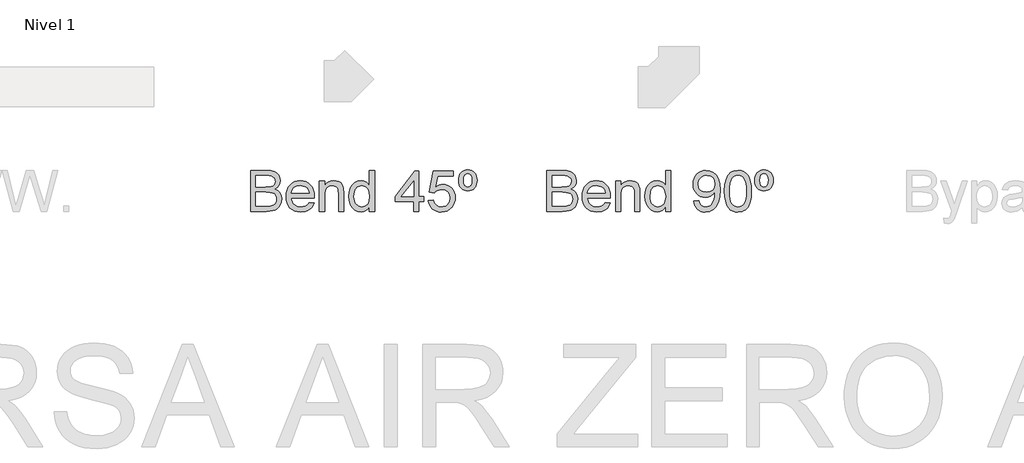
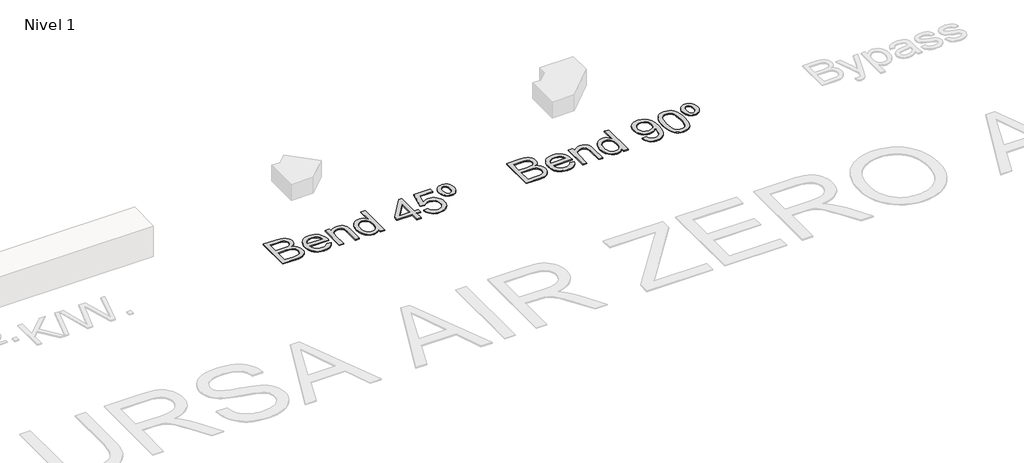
# One storey, part 2 of 6: 2 proxies.
"""IFC4 building model written with IfcOpenShell, lengths in millimetres."""

import ifcopenshell
import ifcopenshell.guid

model = None  # the IFC model being written
_history = None  # IfcOwnerHistory: only IFC2X3 demands one
_inside = {}  # id of a spatial element -> (the spatial element, [elements in it])
_under = {}  # id of a project, library or spatial element -> (it, [spatial elements below it])
_declared = {}  # id of a project -> (the project, [libraries it declares])
_typed = {}  # id of a type object -> (the type object, [elements of that type])
_made_of = {}  # id of a material, layer set ... -> (it, [elements and type objects made of it])


def new_model(schema):
    """Start an empty IFC model of exactly this schema.

    Asked for "IFC4X3", IfcOpenShell would pick the latest addendum, in which some entities
    have other attributes; the version numbers below select the first issue.
    IFC2X3 requires an IfcOwnerHistory on every rooted entity: one is made here for all.
    """
    global model, _history
    if schema == "IFC4X3":
        model = ifcopenshell.file(schema_version=(4, 3, 0, 0))
    else:
        model = ifcopenshell.file(schema=schema)
    _inside.clear()
    _under.clear()
    _declared.clear()
    _typed.clear()
    _made_of.clear()
    _history = None
    if model.schema == "IFC2X3":
        org = make("IfcOrganization", Name="unknown")
        user = make(
            "IfcPersonAndOrganization",
            ThePerson=make("IfcPerson", FamilyName="unknown"),
            TheOrganization=org,
        )
        app = make(
            "IfcApplication",
            ApplicationDeveloper=org,
            Version="unknown",
            ApplicationFullName="unknown",
            ApplicationIdentifier="unknown",
        )
        _history = make(
            "IfcOwnerHistory",
            OwningUser=user,
            OwningApplication=app,
            ChangeAction="ADDED",
            CreationDate=0,
        )
    return model


def make(cls, **values):
    """One entity of the class cls with the attributes given. An attribute that is None is left unset."""
    return model.create_entity(
        cls, **{name: value for name, value in values.items() if value is not None}
    )


def rooted(cls, **values):
    """An entity with a GlobalId (a new one), such as an element, a storey or a relation."""
    return make(cls, GlobalId=ifcopenshell.guid.new(), OwnerHistory=_history, **values)


def si_unit(unit_type, name, prefix=None):
    """IfcSIUnit, for example si_unit("LENGTHUNIT", "METRE", prefix="MILLI")."""
    return make("IfcSIUnit", UnitType=unit_type, Prefix=prefix, Name=name)


def assignment(units):
    """IfcUnitAssignment: the units of a project."""
    return None if units is None else make("IfcUnitAssignment", Units=units)


def point(xyz):
    """IfcCartesianPoint."""
    return None if xyz is None else make("IfcCartesianPoint", Coordinates=xyz)


def direction(xyz):
    """IfcDirection."""
    return None if xyz is None else make("IfcDirection", DirectionRatios=xyz)


def frame(location, z_axis=None, x_axis=None):
    """IfcAxis2Placement3D, a coordinate frame: its origin and axes. An axis left out is left unset."""
    return make(
        "IfcAxis2Placement3D",
        Location=point(location),
        Axis=direction(z_axis),
        RefDirection=direction(x_axis),
    )


def origin():
    """The frame at (0, 0, 0) with its axes left unset."""
    return frame((0.0, 0.0, 0.0))


def origin_with_axes():
    """The frame at (0, 0, 0) with the z axis (0, 0, 1) and the x axis (1, 0, 0) written out."""
    return frame((0.0, 0.0, 0.0), z_axis=(0.0, 0.0, 1.0), x_axis=(1.0, 0.0, 0.0))


def place(relative_to, where):
    """IfcLocalPlacement: puts the frame where relative to a parent placement (None: the world)."""
    return make(
        "IfcLocalPlacement", PlacementRelTo=relative_to, RelativePlacement=where
    )


def context(
    kind, dimensions, precision=None, world=None, true_north=None, identifier=None
):
    """IfcGeometricRepresentationContext, for example the 3D "Model" context."""
    return make(
        "IfcGeometricRepresentationContext",
        ContextIdentifier=identifier,
        ContextType=kind,
        CoordinateSpaceDimension=dimensions,
        Precision=precision,
        WorldCoordinateSystem=world,
        TrueNorth=true_north,
    )


def project(units=None, contexts=None):
    """IfcProject with its units and contexts."""
    return rooted(
        "IfcProject",
        Name="project",
        RepresentationContexts=contexts,
        UnitsInContext=assignment(units),
    )


def spatial(cls, under=None, at=None, **own):
    """A site, building, storey or space (cls), placed at a placement, below another one or the project."""
    s = rooted(cls, ObjectPlacement=at, **own)
    if under is not None:
        _under.setdefault(under.id(), (under, []))[1].append(s)
    return s


def polyline(points):
    """IfcPolyline through the points."""
    return make("IfcPolyline", Points=[point(p) for p in points])


def outline(outer, holes=None, kind="AREA"):
    """IfcArbitraryClosedProfileDef: a profile drawn as a closed curve; with holes, ...WithVoids."""
    if holes is None:
        return make("IfcArbitraryClosedProfileDef", ProfileType=kind, OuterCurve=outer)
    return make(
        "IfcArbitraryProfileDefWithVoids",
        ProfileType=kind,
        OuterCurve=outer,
        InnerCurves=holes,
    )


def extrude(swept, where, along, depth):
    """IfcExtrudedAreaSolid: the profile swept, set in the frame where, extruded along a direction by depth."""
    return make(
        "IfcExtrudedAreaSolid",
        SweptArea=swept,
        Position=where,
        ExtrudedDirection=direction(along),
        Depth=depth,
    )


def shape(context_of_items, identifier, shape_type, items):
    """IfcShapeRepresentation: the items that make up one representation, for example the "Body"."""
    return make(
        "IfcShapeRepresentation",
        ContextOfItems=context_of_items,
        RepresentationIdentifier=identifier,
        RepresentationType=shape_type,
        Items=items,
    )


def made_of(thing, what):
    """Note that an element or type object is made of a material, layer set ...; save() writes the relation."""
    if what is not None:
        _made_of.setdefault(what.id(), (what, []))[1].append(thing)
    return thing


def element(
    cls,
    number,
    at=None,
    inside=None,
    cuts=None,
    type_object=None,
    material=None,
    context=None,
    identifier="Body",
    shape_type=None,
    held_by="IfcProductDefinitionShape",
    body=None,
    shapes=None,
    **own,
):
    """One element of the class cls, such as IfcWall. Its Tag is "e" and its number.

    at: its placement. inside: the storey or other place that contains it. cuts: it is an
    opening in that element (IfcRelVoidsElement). A single representation is given by context,
    identifier, shape_type and body (its items); several are given by shapes. held_by: the class
    of the entity that holds the representations. save() writes the other relations.
    """
    e = rooted(cls, Tag="e%d" % number, ObjectPlacement=at, **own)
    if body is not None:
        shapes = [shape(context, identifier, shape_type, body)]
    if shapes is not None:
        e.Representation = make(held_by, Representations=shapes)
    if inside is not None:
        _inside.setdefault(inside.id(), (inside, []))[1].append(e)
    if cuts is not None:
        rooted(
            "IfcRelVoidsElement", RelatingBuildingElement=cuts, RelatedOpeningElement=e
        )
    if type_object is not None:
        _typed.setdefault(type_object.id(), (type_object, []))[1].append(e)
    return made_of(e, material)


def aggregate(whole, parts):
    """IfcRelAggregates: a whole, such as a stair, and the parts it consists of."""
    return rooted("IfcRelAggregates", RelatingObject=whole, RelatedObjects=parts)


def save(model, path):
    """Write the relations noted so far, then the file.

    IfcRelAggregates (storeys below a building ...), IfcRelContainedInSpatialStructure (elements
    in a storey), IfcRelDefinesByType, IfcRelAssociatesMaterial and IfcRelDeclares: one each for
    every whole, place, type object, material and project.
    """
    for whole, parts in _under.values():
        aggregate(whole, parts)
    for where, things in _inside.values():
        rooted(
            "IfcRelContainedInSpatialStructure",
            RelatedElements=things,
            RelatingStructure=where,
        )
    for kind, things in _typed.values():
        rooted("IfcRelDefinesByType", RelatedObjects=things, RelatingType=kind)
    for what, things in _made_of.values():
        rooted("IfcRelAssociatesMaterial", RelatedObjects=things, RelatingMaterial=what)
    for by, libraries in _declared.values():
        rooted("IfcRelDeclares", RelatingContext=by, RelatedDefinitions=libraries)
    model.write(path)


model = new_model("IFC4")

# Units and contexts
model_context = context("Model", 3, world=origin())
ifc_project = project(units=[si_unit("LENGTHUNIT", "METRE", prefix="MILLI")], contexts=[model_context])

# Site, building, storey
site = spatial("IfcSite", under=ifc_project)
building = spatial("IfcBuilding", under=site)
storey = spatial("IfcBuildingStorey", under=building, Name="Nivel 1", Elevation=0.0)

# Proxies
placement = place(None, origin())
element("IfcBuildingElementProxy", 1, Name="Texto de modelo 1", ObjectType="Texto de modelo 1", at=placement, inside=storey, context=model_context, shape_type="SweptSolid", body=[
    extrude(outline(polyline([(-12647.2257792, -1016.3248037), (-12647.2257792, -614.4995631), (-12493.8925636, -614.4995631), (-12451.7210242, -617.4548818), (-12418.7955857, -626.3208379), (-12393.5588808, -641.3181605), (-12374.4535425, -662.667579), (-12362.4238013, -687.7816565), (-12358.4138875, -714.0729565), (-12361.7861391, -738.267329), (-12371.902894, -761.014699), (-12388.8377285, -780.917115), (-12412.6642191, -796.5766252), (-12384.2024154, -811.4390578), (-12363.171828, -834.0515378), (-12350.1855936, -862.9180117), (-12345.8568488, -896.5424261), (-12348.8121674, -924.5627714), (-12357.6781235, -950.547503), (-12370.9096126, -972.6449481), (-12386.9615303, -989.0034342), (-12406.6186916, -1000.8492344), (-12430.6659114, -1009.4086222), (-12459.8880045, -1014.5957583), (-12495.069786, -1016.3248037), (-12647.2257792, -1016.3248037)]), holes=[polyline([(-12596.9976241, -777.7410671), (-12505.27238, -777.7410671), (-12451.7087615, -773.424585), (-12432.9590425, -765.981106), (-12419.4822987, -754.8342815), (-12411.3521066, -740.1557899), (-12408.6420426, -722.1173094), (-12411.1681656, -704.6061264), (-12418.7465347, -689.3512864), (-12431.0337934, -677.4441725), (-12447.686585, -669.976168), (-12473.2421209, -666.0398306), (-12512.2376124, -664.7277182), (-12596.9976241, -664.7277182), (-12596.9976241, -777.7410671)]), polyline([(-12596.9976241, -966.0966486), (-12493.9906655, -966.0966486), (-12456.7119566, -964.1346113), (-12425.1722069, -953.1962533), (-12413.5961868, -943.7662115), (-12404.2765096, -930.8780789), (-12398.1328803, -915.1082041), (-12396.0850038, -897.0329354), (-12398.4884995, -876.0391362), (-12405.6989866, -857.988393), (-12418.2928136, -843.8739871), (-12436.8463289, -834.6891999), (-12463.1253661, -829.6492166), (-12498.8957587, -827.9692222), (-12596.9976241, -827.9692222), (-12596.9976241, -966.0966486)])]), origin_with_axes(), (0.0, 0.0, 1.0), 10.0),
    extrude(outline(polyline([(-12076.4691264, -928.4255323), (-12027.22199, -934.7040517), (-12034.7727679, -954.428658), (-12044.9661649, -971.8110823), (-12057.8021808, -986.8513245), (-12073.2808158, -999.5493847), (-12091.2426542, -1009.6354827), (-12111.5282806, -1016.8398385), (-12159.0708971, -1022.6033231), (-12190.2366334, -1020.1170539), (-12218.0055927, -1012.6582465), (-12242.3777749, -1000.2269007), (-12263.35318, -982.8230167), (-12280.2205694, -960.9309723), (-12292.2687048, -935.0351455), (-12299.497586, -905.1355363), (-12301.9072131, -871.2321448), (-12299.4730605, -836.179122), (-12292.1706029, -805.2831658), (-12279.9998402, -778.5442761), (-12262.9607725, -755.962453), (-12242.0405497, -738.0220743), (-12218.2263219, -725.2075182), (-12191.518089, -717.5187845), (-12161.9158512, -714.9558732), (-12133.2670408, -717.5126531), (-12107.3589513, -725.1829927), (-12084.1915826, -737.966892), (-12063.7649348, -755.8643511), (-12047.0906834, -778.3971233), (-12035.1805038, -805.0869621), (-12028.0343961, -835.9338674), (-12025.6523601, -870.9378392), (-12025.9466657, -884.4758966), (-12251.679058, -884.4758966), (-12248.7697245, -904.519334), (-12242.9847802, -922.0734365), (-12234.3242249, -937.1382042), (-12222.7880586, -949.7136371), (-12209.0139436, -959.6280569), (-12193.6395419, -966.7097853), (-12158.0898784, -972.375168), (-12131.3571201, -969.7509431), (-12108.842742, -961.8782684), (-12090.5467441, -948.2666346), (-12076.4691264, -928.4255323)]), holes=[polyline([(-12251.679058, -834.2477415), (-12075.8805152, -834.2477415), (-12082.6740694, -807.711187), (-12095.9913976, -788.728476), (-12109.6888706, -778.4277801), (-12125.2748044, -771.0701402), (-12142.7491992, -766.6555563), (-12162.1120549, -765.1840283), (-12195.9694612, -769.8806551), (-12223.965281, -783.9705355), (-12243.4262386, -805.9330907), (-12251.679058, -834.2477415)])]), origin_with_axes(), (0.0, 0.0, 1.0), 10.0),
    extrude(outline(polyline([(-11975.4242051, -1016.3248037), (-11975.4242051, -721.2343926), (-11925.19605, -721.2343926), (-11925.19605, -762.4371761), (-11907.7461807, -741.6641061), (-11886.7891697, -726.826199), (-11862.325017, -717.9234547), (-11834.3537227, -714.9558732), (-11809.5952644, -717.3471062), (-11786.9214707, -724.5208051), (-11768.0123362, -735.5817904), (-11754.5478552, -749.6348827), (-11745.412119, -766.6432936), (-11739.4892188, -786.570235), (-11736.8404685, -835.1306583), (-11736.8404685, -1016.3248037), (-11787.0686235, -1016.3248037), (-11787.0686235, -841.899687), (-11788.5156261, -815.9272182), (-11792.8566336, -797.459542), (-11800.8641984, -784.2280529), (-11813.3108725, -773.9641453), (-11829.2646884, -767.3790576), (-11847.7936782, -765.1840283), (-11877.2119751, -770.1136471), (-11902.2892644, -784.9025033), (-11912.3109831, -796.9751641), (-11919.4693536, -813.4746716), (-11923.7643759, -834.4010257), (-11925.19605, -859.7542265), (-11925.19605, -1016.3248037), (-11975.4242051, -1016.3248037)])), origin_with_axes(), (0.0, 0.0, 1.0), 10.0),
    extrude(outline(polyline([(-11485.6996931, -1016.3248037), (-11485.6996931, -968.9416027), (-11500.7276726, -992.4186054), (-11518.9317, -1009.187893), (-11540.3117753, -1019.2494656), (-11564.8678985, -1022.6033231), (-11597.3396159, -1017.7472807), (-11627.0644811, -1003.1791537), (-11652.2276096, -979.9167489), (-11671.0141168, -948.9778731), (-11682.7127642, -911.6133251), (-11686.6123134, -869.0739038), (-11683.0193326, -827.0617799), (-11672.2403901, -789.1208835), (-11654.2877488, -757.4094555), (-11629.1736712, -734.085737), (-11598.7988811, -719.7383392), (-11565.0641022, -714.9558732), (-11540.4895849, -718.3771758), (-11518.7600217, -728.6410835), (-11500.3413965, -744.3741701), (-11485.6996931, -764.2030097), (-11485.6996931, -614.4995631), (-11435.471538, -614.4995631), (-11435.471538, -1016.3248037), (-11485.6996931, -1016.3248037)]), holes=[polyline([(-11636.3841583, -868.8777), (-11634.9678126, -893.2345538), (-11630.7187756, -914.3111264), (-11623.6370472, -932.1074179), (-11613.7226274, -946.6234283), (-11589.0254828, -965.9372331), (-11575.1502002, -970.7656843), (-11560.2571108, -972.375168), (-11545.2935106, -970.8392607), (-11531.5010015, -966.2315387), (-11507.4292563, -947.8006507), (-11497.9225724, -933.8916456), (-11491.1320839, -916.7391476), (-11485.6996931, -872.7036728), (-11491.2301858, -824.5601823), (-11498.1433016, -806.0250612), (-11507.8216637, -791.1810226), (-11519.5233769, -779.8073376), (-11532.5065456, -771.6832769), (-11546.77117, -766.8088405), (-11562.31725, -765.1840283), (-11577.504645, -766.7444611), (-11591.3799276, -771.4257595), (-11603.9430977, -779.2279235), (-11615.1941554, -790.1509531), (-11624.4647817, -804.4339715), (-11631.0866576, -822.3161022), (-11636.3841583, -868.8777)])]), origin_with_axes(), (0.0, 0.0, 1.0), 10.0),
    extrude(outline(polyline([(-11052.4818556, -1016.3248037), (-11052.4818556, -922.1470129), (-11234.5589177, -922.1470129), (-11234.5589177, -871.9188579), (-11039.9248168, -620.7780825), (-11002.2537005, -620.7780825), (-11002.2537005, -871.9188579), (-10952.0255454, -871.9188579), (-10952.0255454, -922.1470129), (-11002.2537005, -922.1470129), (-11002.2537005, -1016.3248037), (-11052.4818556, -1016.3248037)]), holes=[polyline([(-11052.4818556, -871.9188579), (-11052.4818556, -716.7217068), (-11172.7547425, -871.9188579), (-11052.4818556, -871.9188579)])]), origin_with_axes(), (0.0, 0.0, 1.0), 10.0),
    extrude(outline(polyline([(-10908.0759097, -909.5899742), (-10857.8477547, -903.3114548), (-10848.6261793, -933.4655156), (-10832.5374734, -955.0601888), (-10809.6552133, -968.0464232), (-10780.0529754, -972.375168), (-10760.9231117, -970.8699175), (-10744.0495908, -966.354166), (-10729.4324129, -958.8279135), (-10717.0715778, -948.2911601), (-10707.2429972, -935.2650717), (-10700.2225825, -920.2708148), (-10694.6062507, -884.3777948), (-10699.8669632, -850.5817021), (-10706.4428539, -836.6635), (-10715.6491008, -824.7318606), (-10727.5163608, -815.1607974), (-10742.0752908, -808.3243236), (-10779.2681605, -802.8551446), (-10803.6342113, -805.0379111), (-10823.364949, -811.5862106), (-10839.1225611, -821.6171264), (-10851.5692353, -834.2477415), (-10901.7973903, -827.9692222), (-10857.8477547, -620.7780825), (-10663.2136537, -620.7780825), (-10663.2136537, -671.0062376), (-10817.2335824, -671.0062376), (-10838.7178909, -781.6651417), (-10820.9921101, -768.9609501), (-10802.8371336, -759.8865276), (-10784.2529615, -754.4418741), (-10765.2395937, -752.6269896), (-10740.7785067, -754.8772011), (-10718.3101139, -761.6278357), (-10697.8344152, -772.8788934), (-10679.3514106, -788.6303741), (-10664.0505853, -807.9196534), (-10653.1214243, -829.7841067), (-10646.5639278, -854.2237339), (-10644.3780956, -881.2385351), (-10646.3462643, -907.2600549), (-10652.2507703, -931.4666901), (-10662.0916137, -953.8584409), (-10675.8687944, -974.4353072), (-10696.7399662, -995.5088141), (-10721.0937543, -1010.5613191), (-10748.9301586, -1019.5928221), (-10780.2491791, -1022.6033231), (-10806.1695314, -1020.6688769), (-10829.5821547, -1014.8655384), (-10850.4870491, -1005.1933077), (-10868.8842145, -991.6521846), (-10884.1911712, -974.9166195), (-10895.8254393, -955.6610627), (-10903.7870188, -933.8855143), (-10908.0759097, -909.5899742)])), origin_with_axes(), (0.0, 0.0, 1.0), 10.0),
    extrude(outline(polyline([(-10521.9469676, -608.2210437), (-10502.7619215, -609.9439577), (-10485.4285482, -615.1126998), (-10469.9468476, -623.7272698), (-10456.3168197, -635.7876679), (-10445.200652, -650.8830924), (-10437.2605323, -668.6027419), (-10432.4964605, -688.9466162), (-10430.9084365, -711.9147154), (-10432.5056575, -734.7969755), (-10437.2973205, -755.0795362), (-10445.2834255, -772.7623974), (-10456.4639725, -787.8455592), (-10470.1215915, -799.9059573), (-10485.5389128, -808.5205274), (-10502.7159363, -813.6892694), (-10521.652662, -815.4121834), (-10540.8469051, -813.7229919), (-10558.2078696, -808.6554174), (-10573.7355555, -800.2094599), (-10587.4299627, -788.3851195), (-10598.6105097, -773.5441467), (-10606.5966147, -756.0482921), (-10611.3882777, -735.8975558), (-10612.9854987, -713.0919378), (-10611.3974747, -689.6088038), (-10606.6334029, -668.8970474), (-10598.6932832, -650.9566688), (-10587.5771155, -635.7876679), (-10573.9470876, -623.7272698), (-10558.465387, -615.1126998), (-10541.1320136, -609.9439577), (-10521.9469676, -608.2210437)]), holes=[polyline([(-10521.9469676, -645.89216), (-10538.5139201, -649.754921), (-10551.52468, -661.3432038), (-10559.9491777, -681.6870781), (-10562.7573436, -711.8166136), (-10559.9001268, -741.394326), (-10551.3284763, -761.8485649), (-10538.2686654, -773.7679415), (-10521.9469676, -777.7410671), (-10505.5026424, -773.7679415), (-10492.467357, -761.8485649), (-10483.969283, -741.0509694), (-10481.1365916, -710.4431874), (-10483.9938084, -681.7116036), (-10492.5654589, -661.6375094), (-10505.6252697, -649.8284974), (-10521.9469676, -645.89216)])]), origin_with_axes(), (0.0, 0.0, 1.0), 10.0),
])
element("IfcBuildingElementProxy", 2, Name="Texto de modelo 1", ObjectType="Texto de modelo 1", at=placement, inside=storey, context=model_context, shape_type="SweptSolid", body=[
    extrude(outline(polyline([(-9747.2257792, -1016.3248037), (-9747.2257792, -614.4995631), (-9593.8925636, -614.4995631), (-9551.7210242, -617.4548818), (-9518.7955857, -626.3208379), (-9493.5588808, -641.3181605), (-9474.4535425, -662.667579), (-9462.4238013, -687.7816565), (-9458.4138875, -714.0729565), (-9461.7861391, -738.267329), (-9471.902894, -761.014699), (-9488.8377285, -780.917115), (-9512.6642191, -796.5766252), (-9484.2024154, -811.4390578), (-9463.171828, -834.0515378), (-9450.1855936, -862.9180117), (-9445.8568488, -896.5424261), (-9448.8121674, -924.5627714), (-9457.6781235, -950.547503), (-9470.9096126, -972.6449481), (-9486.9615303, -989.0034342), (-9506.6186916, -1000.8492344), (-9530.6659114, -1009.4086222), (-9559.8880045, -1014.5957583), (-9595.069786, -1016.3248037), (-9747.2257792, -1016.3248037)]), holes=[polyline([(-9696.9976241, -777.7410671), (-9605.27238, -777.7410671), (-9551.7087615, -773.424585), (-9532.9590425, -765.981106), (-9519.4822987, -754.8342815), (-9511.3521066, -740.1557899), (-9508.6420426, -722.1173094), (-9511.1681656, -704.6061264), (-9518.7465347, -689.3512864), (-9531.0337934, -677.4441725), (-9547.686585, -669.976168), (-9573.2421209, -666.0398306), (-9612.2376124, -664.7277182), (-9696.9976241, -664.7277182), (-9696.9976241, -777.7410671)]), polyline([(-9696.9976241, -966.0966486), (-9593.9906655, -966.0966486), (-9556.7119566, -964.1346113), (-9525.1722069, -953.1962533), (-9513.5961868, -943.7662115), (-9504.2765096, -930.8780789), (-9498.1328803, -915.1082041), (-9496.0850038, -897.0329354), (-9498.4884995, -876.0391362), (-9505.6989866, -857.988393), (-9518.2928136, -843.8739871), (-9536.8463289, -834.6891999), (-9563.1253661, -829.6492166), (-9598.8957587, -827.9692222), (-9696.9976241, -827.9692222), (-9696.9976241, -966.0966486)])]), origin_with_axes(), (0.0, 0.0, 1.0), 10.0),
    extrude(outline(polyline([(-9176.4691264, -928.4255323), (-9127.22199, -934.7040517), (-9134.7727679, -954.428658), (-9144.9661649, -971.8110823), (-9157.8021808, -986.8513245), (-9173.2808158, -999.5493847), (-9191.2426542, -1009.6354827), (-9211.5282806, -1016.8398385), (-9259.0708971, -1022.6033231), (-9290.2366334, -1020.1170539), (-9318.0055927, -1012.6582465), (-9342.3777749, -1000.2269007), (-9363.35318, -982.8230167), (-9380.2205694, -960.9309723), (-9392.2687048, -935.0351455), (-9399.497586, -905.1355363), (-9401.9072131, -871.2321448), (-9399.4730605, -836.179122), (-9392.1706029, -805.2831658), (-9379.9998402, -778.5442761), (-9362.9607725, -755.962453), (-9342.0405497, -738.0220743), (-9318.2263219, -725.2075182), (-9291.518089, -717.5187845), (-9261.9158512, -714.9558732), (-9233.2670408, -717.5126531), (-9207.3589513, -725.1829927), (-9184.1915826, -737.966892), (-9163.7649348, -755.8643511), (-9147.0906834, -778.3971233), (-9135.1805038, -805.0869621), (-9128.0343961, -835.9338674), (-9125.6523601, -870.9378392), (-9125.9466657, -884.4758966), (-9351.679058, -884.4758966), (-9348.7697245, -904.519334), (-9342.9847802, -922.0734365), (-9334.3242249, -937.1382042), (-9322.7880586, -949.7136371), (-9309.0139436, -959.6280569), (-9293.6395419, -966.7097853), (-9258.0898784, -972.375168), (-9231.3571201, -969.7509431), (-9208.842742, -961.8782684), (-9190.5467441, -948.2666346), (-9176.4691264, -928.4255323)]), holes=[polyline([(-9351.679058, -834.2477415), (-9175.8805152, -834.2477415), (-9182.6740694, -807.711187), (-9195.9913976, -788.728476), (-9209.6888706, -778.4277801), (-9225.2748044, -771.0701402), (-9242.7491992, -766.6555563), (-9262.1120549, -765.1840283), (-9295.9694612, -769.8806551), (-9323.965281, -783.9705355), (-9343.4262386, -805.9330907), (-9351.679058, -834.2477415)])]), origin_with_axes(), (0.0, 0.0, 1.0), 10.0),
    extrude(outline(polyline([(-9075.4242051, -1016.3248037), (-9075.4242051, -721.2343926), (-9025.19605, -721.2343926), (-9025.19605, -762.4371761), (-9007.7461807, -741.6641061), (-8986.7891697, -726.826199), (-8962.325017, -717.9234547), (-8934.3537227, -714.9558732), (-8909.5952644, -717.3471062), (-8886.9214707, -724.5208051), (-8868.0123362, -735.5817904), (-8854.5478552, -749.6348827), (-8845.412119, -766.6432936), (-8839.4892188, -786.570235), (-8836.8404685, -835.1306583), (-8836.8404685, -1016.3248037), (-8887.0686235, -1016.3248037), (-8887.0686235, -841.899687), (-8888.5156261, -815.9272182), (-8892.8566336, -797.459542), (-8900.8641984, -784.2280529), (-8913.3108725, -773.9641453), (-8929.2646884, -767.3790576), (-8947.7936782, -765.1840283), (-8977.2119751, -770.1136471), (-9002.2892644, -784.9025033), (-9012.3109831, -796.9751641), (-9019.4693536, -813.4746716), (-9023.7643759, -834.4010257), (-9025.19605, -859.7542265), (-9025.19605, -1016.3248037), (-9075.4242051, -1016.3248037)])), origin_with_axes(), (0.0, 0.0, 1.0), 10.0),
    extrude(outline(polyline([(-8585.6996931, -1016.3248037), (-8585.6996931, -968.9416027), (-8600.7276726, -992.4186054), (-8618.9317, -1009.187893), (-8640.3117753, -1019.2494656), (-8664.8678985, -1022.6033231), (-8697.3396159, -1017.7472807), (-8727.0644811, -1003.1791537), (-8752.2276096, -979.9167489), (-8771.0141168, -948.9778731), (-8782.7127642, -911.6133251), (-8786.6123134, -869.0739038), (-8783.0193326, -827.0617799), (-8772.2403901, -789.1208835), (-8754.2877488, -757.4094555), (-8729.1736712, -734.085737), (-8698.7988811, -719.7383392), (-8665.0641022, -714.9558732), (-8640.4895849, -718.3771758), (-8618.7600217, -728.6410835), (-8600.3413965, -744.3741701), (-8585.6996931, -764.2030097), (-8585.6996931, -614.4995631), (-8535.471538, -614.4995631), (-8535.471538, -1016.3248037), (-8585.6996931, -1016.3248037)]), holes=[polyline([(-8736.3841583, -868.8777), (-8734.9678126, -893.2345538), (-8730.7187756, -914.3111264), (-8723.6370472, -932.1074179), (-8713.7226274, -946.6234283), (-8689.0254828, -965.9372331), (-8675.1502002, -970.7656843), (-8660.2571108, -972.375168), (-8645.2935106, -970.8392607), (-8631.5010015, -966.2315387), (-8607.4292563, -947.8006507), (-8597.9225724, -933.8916456), (-8591.1320839, -916.7391476), (-8585.6996931, -872.7036728), (-8591.2301858, -824.5601823), (-8598.1433016, -806.0250612), (-8607.8216637, -791.1810226), (-8619.5233769, -779.8073376), (-8632.5065456, -771.6832769), (-8646.77117, -766.8088405), (-8662.31725, -765.1840283), (-8677.504645, -766.7444611), (-8691.3799276, -771.4257595), (-8703.9430977, -779.2279235), (-8715.1941554, -790.1509531), (-8724.4647817, -804.4339715), (-8731.0866576, -822.3161022), (-8736.3841583, -868.8777)])]), origin_with_axes(), (0.0, 0.0, 1.0), 10.0),
    extrude(outline(polyline([(-8309.4448402, -915.8684935), (-8259.2166851, -909.5899742), (-8250.6327719, -938.1008288), (-8236.6532561, -957.5127354), (-8217.6214942, -968.6595599), (-8193.8808428, -972.375168), (-8172.5804752, -969.983935), (-8153.2176196, -962.8102361), (-8137.1289136, -951.6388862), (-8125.6509954, -937.2547002), (-8109.2189329, -893.5993701), (-8103.7742794, -865.1988801), (-8101.9593949, -835.3268621), (-8102.2537005, -825.5166755), (-8119.6545189, -846.7557294), (-8142.4264144, -863.5801993), (-8168.9261808, -874.5430828), (-8197.5106118, -878.1973772), (-8221.3708249, -875.9655598), (-8243.3119202, -869.2701075), (-8263.3338978, -858.1110203), (-8281.4367576, -842.4882982), (-8296.437146, -823.2174131), (-8307.1517091, -801.1138365), (-8313.5804469, -776.1775686), (-8315.7233596, -748.4086093), (-8313.4762137, -719.7138137), (-8306.7347762, -693.9620741), (-8295.4990469, -671.1533904), (-8279.7690259, -651.2877626), (-8260.6544906, -635.1929253), (-8239.2652182, -623.696613), (-8215.6012089, -616.7988256), (-8189.6624626, -614.4995631), (-8152.1998127, -619.7480129), (-8118.0971518, -635.4933623), (-8089.5740344, -660.9507964), (-8068.8500153, -695.3355002), (-8056.2316629, -742.8658539), (-8052.0255454, -807.7602379), (-8056.2194002, -876.5664337), (-8068.8009644, -929.7499075), (-8089.6598735, -969.7141549), (-8103.1519457, -985.6403796), (-8118.685763, -998.8626717), (-8135.9486256, -1009.2492067), (-8154.6278339, -1016.6681602), (-8196.2352875, -1022.6033231), (-8218.7925852, -1020.8528179), (-8239.1793791, -1015.6013024), (-8257.3956692, -1006.8487766), (-8273.4414556, -994.5952405), (-8286.912068, -979.1717879), (-8297.4028362, -960.9095125), (-8304.9137603, -939.8084144), (-8309.4448402, -915.8684935)]), holes=[polyline([(-8102.2537005, -747.231387), (-8107.6738286, -713.1900397), (-8114.4489886, -699.112422), (-8123.9342127, -686.9968416), (-8135.663517, -677.2541001), (-8149.1709176, -670.294999), (-8181.5200077, -664.7277182), (-8199.1292926, -666.2268373), (-8215.0708457, -670.7241947), (-8229.3446671, -678.2197903), (-8241.9507568, -688.7136243), (-8252.2514527, -701.5925598), (-8259.6090926, -716.2434602), (-8264.0236765, -732.6663256), (-8265.4952045, -750.861156), (-8259.9279236, -781.8981336), (-8252.9688226, -795.0161924), (-8243.2260811, -806.5339646), (-8231.1043693, -815.9118898), (-8217.0083575, -822.6104078), (-8182.8934338, -827.9692222), (-8150.8018611, -822.6104078), (-8124.9642823, -806.5339646), (-8115.0284028, -794.7893319), (-8107.931346, -780.9906914), (-8102.2537005, -747.231387)])]), origin_with_axes(), (0.0, 0.0, 1.0), 10.0),
    extrude(outline(polyline([(-8008.0759097, -818.649545), (-8004.384827, -754.3315095), (-7993.311579, -703.0364966), (-7974.9665302, -663.9796914), (-7963.1084672, -648.7463112), (-7949.4600452, -636.3762791), (-7933.9752789, -626.8052158), (-7916.608183, -619.9687421), (-7876.2270027, -614.4995631), (-7845.2758641, -617.7369247), (-7817.5620872, -627.4490093), (-7794.3855215, -643.2556724), (-7777.0460168, -664.7767691), (-7763.9494177, -691.8283585), (-7753.5015691, -724.2264995), (-7746.658964, -765.3679693), (-7744.3780956, -818.649545), (-7748.0323901, -882.5996984), (-7758.9952735, -933.772084), (-7777.2299578, -972.8656773), (-7789.0604296, -988.1450429), (-7802.6996546, -1000.5794543), (-7818.202815, -1010.2148969), (-7835.6250931, -1017.0973559), (-7876.2270027, -1022.6033231), (-7903.8917287, -1020.2120901), (-7928.417195, -1013.0383912), (-7949.8034017, -1001.0822264), (-7968.0503487, -984.3435956), (-7985.5615316, -954.0853015), (-7998.0695195, -916.3835283), (-8005.5743122, -871.2382762), (-8008.0759097, -818.649545)]), holes=[polyline([(-7957.8477547, -818.5514431), (-7956.3762267, -862.2159702), (-7951.9616427, -897.5602329), (-7944.6040028, -924.5842311), (-7934.303307, -943.2879649), (-7921.8443701, -956.0136163), (-7908.012007, -965.1033672), (-7892.8062179, -970.5572178), (-7876.2270027, -972.375168), (-7859.6477874, -970.5510864), (-7844.4419983, -965.0788418), (-7830.6096353, -955.958434), (-7818.1506984, -943.1898631), (-7807.8500025, -924.4554724), (-7800.4923626, -897.4376056), (-7796.0777786, -862.1362625), (-7794.6062507, -818.5514431), (-7796.0287277, -776.0426785), (-7800.2961589, -741.3207496), (-7807.4085441, -714.3856562), (-7817.3658834, -695.2373983), (-7829.6163539, -681.8894132), (-7843.6081324, -672.3551382), (-7859.3412191, -666.6345732), (-7876.8156139, -664.7277182), (-7893.30899, -666.4077126), (-7908.2572617, -671.4476959), (-7921.6604291, -679.8476682), (-7933.518492, -691.6076293), (-7944.1625444, -712.4542757), (-7951.765439, -740.5604601), (-7956.3271757, -775.9261826), (-7957.8477547, -818.5514431)])]), origin_with_axes(), (0.0, 0.0, 1.0), 10.0),
    extrude(outline(polyline([(-7621.9469676, -608.2210437), (-7602.7619215, -609.9439577), (-7585.4285482, -615.1126998), (-7569.9468476, -623.7272698), (-7556.3168197, -635.7876679), (-7545.200652, -650.8830924), (-7537.2605323, -668.6027419), (-7532.4964605, -688.9466162), (-7530.9084365, -711.9147154), (-7532.5056575, -734.7969755), (-7537.2973205, -755.0795362), (-7545.2834255, -772.7623974), (-7556.4639725, -787.8455592), (-7570.1215915, -799.9059573), (-7585.5389128, -808.5205274), (-7602.7159363, -813.6892694), (-7621.652662, -815.4121834), (-7640.8469051, -813.7229919), (-7658.2078696, -808.6554174), (-7673.7355555, -800.2094599), (-7687.4299627, -788.3851195), (-7698.6105097, -773.5441467), (-7706.5966147, -756.0482921), (-7711.3882777, -735.8975558), (-7712.9854987, -713.0919378), (-7711.3974747, -689.6088038), (-7706.6334029, -668.8970474), (-7698.6932832, -650.9566688), (-7687.5771155, -635.7876679), (-7673.9470876, -623.7272698), (-7658.465387, -615.1126998), (-7641.1320136, -609.9439577), (-7621.9469676, -608.2210437)]), holes=[polyline([(-7621.9469676, -645.89216), (-7638.5139201, -649.754921), (-7651.52468, -661.3432038), (-7659.9491777, -681.6870781), (-7662.7573436, -711.8166136), (-7659.9001268, -741.394326), (-7651.3284763, -761.8485649), (-7638.2686654, -773.7679415), (-7621.9469676, -777.7410671), (-7605.5026424, -773.7679415), (-7592.467357, -761.8485649), (-7583.969283, -741.0509694), (-7581.1365916, -710.4431874), (-7583.9938084, -681.7116036), (-7592.5654589, -661.6375094), (-7605.6252697, -649.8284974), (-7621.9469676, -645.89216)])]), origin_with_axes(), (0.0, 0.0, 1.0), 10.0),
])

save(model, "model.ifc")
